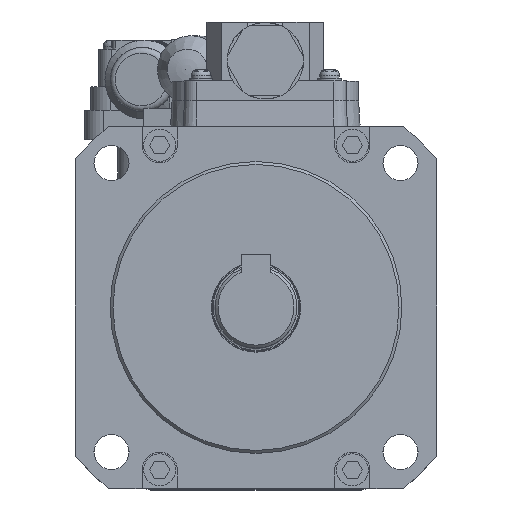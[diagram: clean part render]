
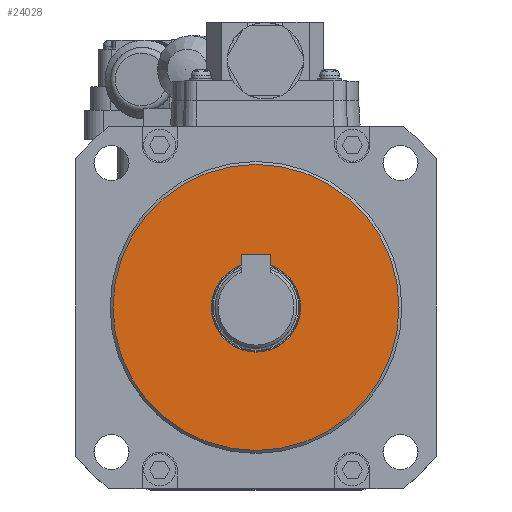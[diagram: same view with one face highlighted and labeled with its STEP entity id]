
A CAD part, top view. The second image highlights one B-rep face of the part: STEP entity #24028.
In plain terms, the highlighted planar face has unit normal (0, 0, 1).
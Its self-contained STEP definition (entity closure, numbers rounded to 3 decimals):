
#7011=ORIENTED_EDGE('',*,*,#14049,.F.);
#7012=ORIENTED_EDGE('',*,*,#14050,.T.);
#14049=EDGE_CURVE('',#17566,#17566,#19211,.T.);
#14050=EDGE_CURVE('',#17567,#17567,#19212,.T.);
#17566=VERTEX_POINT('',#36388);
#17567=VERTEX_POINT('',#36390);
#19211=CIRCLE('',#25573,24.5);
#19212=CIRCLE('',#25574,7.65);
#19929=EDGE_LOOP('',(#7011));
#19930=EDGE_LOOP('',(#7012));
#21437=FACE_BOUND('',#19929,.T.);
#21438=FACE_BOUND('',#19930,.T.);
#22885=PLANE('',#25572);
#24028=ADVANCED_FACE('',(#21437,#21438),#22885,.F.);
#25572=AXIS2_PLACEMENT_3D('',#36386,#28641,#28642);
#25573=AXIS2_PLACEMENT_3D('',#36387,#28643,#28644);
#25574=AXIS2_PLACEMENT_3D('',#36389,#28645,#28646);
#28641=DIRECTION('',(0.,0.,-1.));
#28642=DIRECTION('',(-1.,0.,0.));
#28643=DIRECTION('',(0.,0.,-1.));
#28644=DIRECTION('',(-1.,0.,0.));
#28645=DIRECTION('',(0.,0.,-1.));
#28646=DIRECTION('',(-1.,0.,0.));
#36386=CARTESIAN_POINT('',(0.,0.,3.));
#36387=CARTESIAN_POINT('',(0.,0.,3.));
#36388=CARTESIAN_POINT('',(-24.5,0.,3.));
#36389=CARTESIAN_POINT('',(0.,0.,3.));
#36390=CARTESIAN_POINT('',(-7.65,0.,3.));
